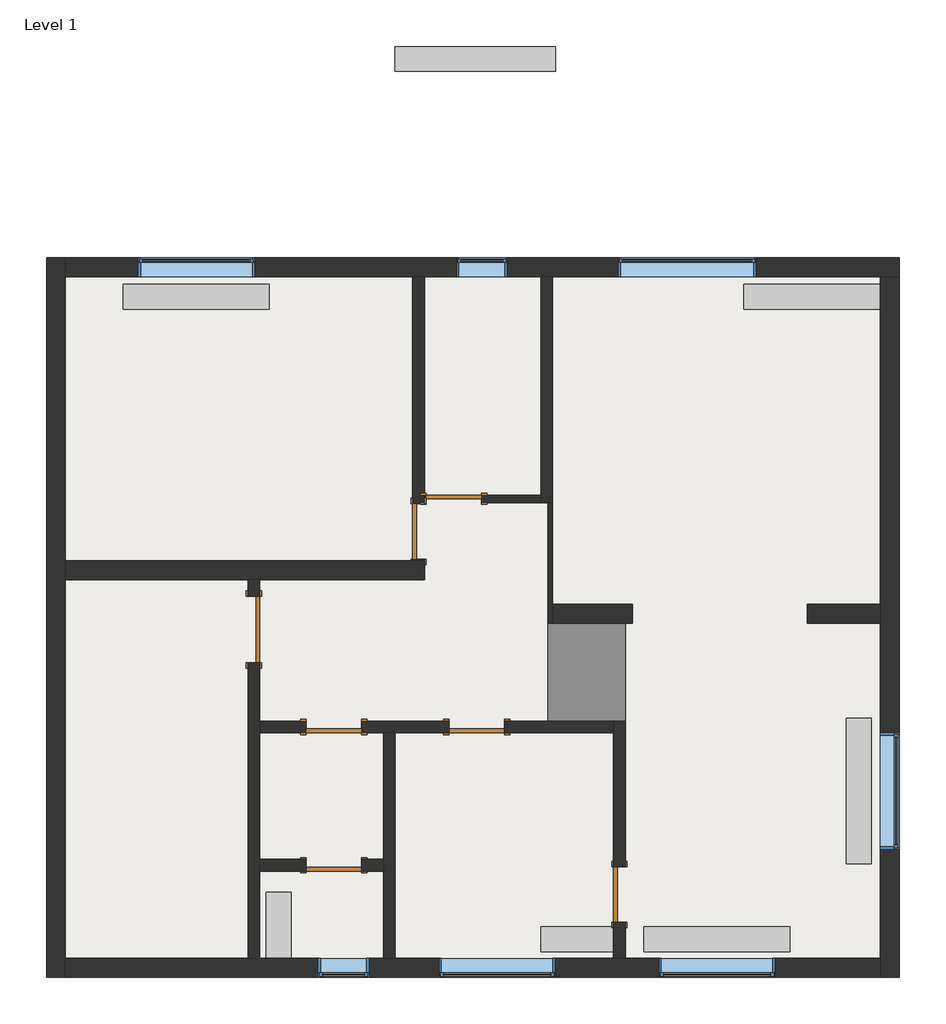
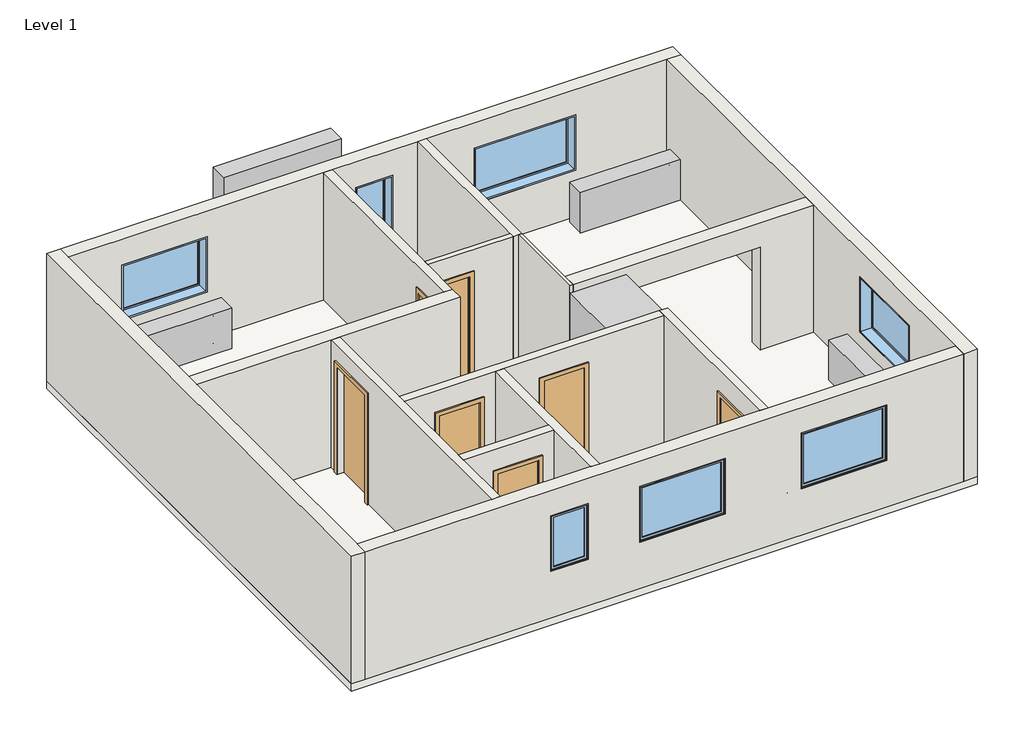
# One storey, incomplete: 15 walls, 7 doors, 7 unitary equipment elements, 7 windows, 1 furniture element, 1 slab.
"""IFC4 building model written with IfcOpenShell, lengths in millimetres."""

from ifc_helpers import new_model, si_unit, frame, origin, place, context, project, spatial, polyline, outline, extrude, faceted_brep, transform, mapped, element, save
from components import m_single_flush_0762_x_2032mm_6f5f7af1, m_single_flush_0762_x_2032mm_6732b1f7, m_single_flush_0762_x_2032mm_f33351b3, m_single_flush_0915_x_2134mm_27e29ea0, furniture_1_furniture_1_8dd05b43, unitary_equipment_ced749f4, unitary_equipment_4d061db1, unitary_equipment_6757032b, unitary_equipment_6f832c0a, m_fixed_0700_x_1100mm_63e92665, m_fixed_1600_x_1100mm_008575aa, m_fixed_1900_x_1100mm_ff859e30

model = new_model("IFC4")

# Units and contexts
model_context = context("Model", 3, world=origin())
ifc_project = project(units=[si_unit("LENGTHUNIT", "METRE", prefix="MILLI")], contexts=[model_context])

# Site, building, storey
site = spatial("IfcSite", under=ifc_project)
building = spatial("IfcBuilding", under=site)
storey = spatial("IfcBuildingStorey", under=building, Name="Level 1", Elevation=0.0)

# Doors
placement = place(None, origin())
m_single_flush_0762_x_2032mm_shape = m_single_flush_0762_x_2032mm_6f5f7af1(model_context)
element("IfcDoor", 1, ObjectType="M_Single-Flush : 0762 x 2032mm", at=placement, inside=storey, context=model_context, shape_type="MappedRepresentation", body=[
    mapped(m_single_flush_0762_x_2032mm_shape, transform((-2700.8634976, 2056.4084322, 0.0), x_axis=(0.0, -1.0, 0.0), y_axis=(1.0, 0.0, 0.0), z_axis=(0.0, 0.0, 1.0))),
])
element("IfcDoor", 2, ObjectType="M_Single-Flush : 0762 x 2032mm", at=placement, inside=storey, context=model_context, shape_type="MappedRepresentation", body=[
    mapped(m_single_flush_0762_x_2032mm_shape, transform((59.1365024, -2922.5915678, 0.0), x_axis=(0.0, -1.0, 0.0), y_axis=(1.0, 0.0, 0.0), z_axis=(0.0, 0.0, 1.0))),
])
m_single_flush_0762_x_2032mm_2_shape = m_single_flush_0762_x_2032mm_6732b1f7(model_context)
element("IfcDoor", 3, ObjectType="M_Single-Flush : 0762 x 2032mm", at=placement, inside=storey, context=model_context, shape_type="MappedRepresentation", body=[
    mapped(m_single_flush_0762_x_2032mm_2_shape, transform((-2219.8634976, 2506.4084322, 0.0), x_axis=(1.0, 0.0, 0.0), y_axis=(0.0, 1.0, 0.0), z_axis=(0.0, 0.0, 1.0))),
])
m_single_flush_0762_x_2032mm_3_shape = m_single_flush_0762_x_2032mm_f33351b3(model_context)
element("IfcDoor", 4, ObjectType="M_Single-Flush : 0762 x 2032mm", at=placement, inside=storey, context=model_context, shape_type="MappedRepresentation", body=[
    mapped(m_single_flush_0762_x_2032mm_3_shape, transform((-1901.8634976, -623.5915678, 0.0), x_axis=(-1.0, 0.0, 0.0), y_axis=(0.0, -1.0, 0.0), z_axis=(0.0, 0.0, 1.0))),
])
element("IfcDoor", 5, ObjectType="M_Single-Flush : 0762 x 2032mm", at=placement, inside=storey, context=model_context, shape_type="MappedRepresentation", body=[
    mapped(m_single_flush_0762_x_2032mm_3_shape, transform((-3861.8634976, -2523.5915678, 0.0), x_axis=(-1.0, 0.0, 0.0), y_axis=(0.0, -1.0, 0.0), z_axis=(0.0, 0.0, 1.0))),
])
element("IfcDoor", 6, ObjectType="M_Single-Flush : 0762 x 2032mm", at=placement, inside=storey, context=model_context, shape_type="MappedRepresentation", body=[
    mapped(m_single_flush_0762_x_2032mm_3_shape, transform((-3861.8634976, -623.5915678, 0.0), x_axis=(-1.0, 0.0, 0.0), y_axis=(0.0, -1.0, 0.0), z_axis=(0.0, 0.0, 1.0))),
])
m_single_flush_0915_x_2134mm_shape = m_single_flush_0915_x_2134mm_27e29ea0(model_context)
element("IfcDoor", 7, ObjectType="M_Single-Flush : 0915 x 2134mm", at=placement, inside=storey, context=model_context, shape_type="MappedRepresentation", body=[
    mapped(m_single_flush_0915_x_2134mm_shape, transform((-4960.8634976, 713.9084322, 0.0), x_axis=(0.0, 1.0, 0.0), y_axis=(-1.0, 0.0, 0.0), z_axis=(0.0, 0.0, 1.0))),
])

# Furniture
furniture_1_furniture_1_shape = furniture_1_furniture_1_8dd05b43(model_context)
element("IfcFurniture", 8, ObjectType="Furniture 1 : Furniture 1", at=placement, inside=storey, context=model_context, shape_type="MappedRepresentation", body=[
    mapped(furniture_1_furniture_1_shape, transform((0.0, 0.0, 0.0), x_axis=(1.0, 0.0, 0.0), y_axis=(0.0, 1.0, 0.0), z_axis=(0.0, 0.0, 1.0))),
])

# Slab
element("IfcSlab", 9, ObjectType="Generic 150mm", at=placement, inside=storey, context=model_context, shape_type="SweptSolid", body=[
    extrude(outline(polyline([(-7810.8634976, -4063.5915678), (-7810.8634976, 5816.4084322), (3899.1365024, 5816.4084322), (3899.1365024, -4063.5915678), (-7810.8634976, -4063.5915678)])), frame((0.0, 0.0, -150.0), z_axis=(0.0, 0.0, 1.0), x_axis=(1.0, 0.0, 0.0)), (0.0, 0.0, 1.0), 150.0),
])

# Unitary equipment
unitary_equipment_shape = unitary_equipment_ced749f4(model_context)
element("IfcUnitaryEquipment", 10, ObjectType="nbl_Radiators : nbl_Radiators", at=placement, inside=storey, context=model_context, shape_type="MappedRepresentation", body=[
    mapped(unitary_equipment_shape, transform((-1892.7024399, 9542.9246025, 0.0), x_axis=(1.0, 0.0, 0.0), y_axis=(0.0, 1.0, 0.0), z_axis=(0.0, 0.0, 1.0))),
])
unitary_equipment_2_shape = unitary_equipment_4d061db1(model_context)
element("IfcUnitaryEquipment", 11, ObjectType="nbl_Radiators : nbl_Radiators_1600", at=placement, inside=storey, context=model_context, shape_type="MappedRepresentation", body=[
    mapped(unitary_equipment_2_shape, transform((-5727.0804199, 6277.3751546, 0.0), x_axis=(1.0, 0.0, 0.0), y_axis=(0.0, 1.0, 0.0), z_axis=(0.0, 0.0, 1.0))),
])
element("IfcUnitaryEquipment", 12, ObjectType="nbl_Radiators : nbl_Radiators_1600", at=placement, inside=storey, context=model_context, shape_type="MappedRepresentation", body=[
    mapped(unitary_equipment_2_shape, transform((2798.0897566, 6277.3751546, 0.0), x_axis=(1.0, 0.0, 0.0), y_axis=(0.0, 1.0, 0.0), z_axis=(0.0, 0.0, 1.0))),
])
element("IfcUnitaryEquipment", 13, ObjectType="nbl_Radiators : nbl_Radiators_1600", at=placement, inside=storey, context=model_context, shape_type="MappedRepresentation", body=[
    mapped(unitary_equipment_2_shape, transform((4342.3309976, -1530.2432821, 0.0), x_axis=(0.0, -1.0000000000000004, 0.0), y_axis=(1.0000000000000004, 0.0, 0.0), z_axis=(0.0, 0.0, 1.0))),
])
element("IfcUnitaryEquipment", 14, ObjectType="nbl_Radiators : nbl_Radiators_1600", at=placement, inside=storey, context=model_context, shape_type="MappedRepresentation", body=[
    mapped(unitary_equipment_2_shape, transform((1369.653756, -4536.1130181, 0.0), x_axis=(-1.0000000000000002, 0.0, 0.0), y_axis=(0.0, -1.0000000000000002, 0.0), z_axis=(0.0, 0.0, 1.0))),
])
unitary_equipment_3_shape = unitary_equipment_6757032b(model_context)
element("IfcUnitaryEquipment", 15, ObjectType="nbl_Radiators : nbl_Radiators-700", at=placement, inside=storey, context=model_context, shape_type="MappedRepresentation", body=[
    mapped(unitary_equipment_3_shape, transform((-499.0914281, -4536.1130181, 0.0), x_axis=(-1.0, 0.0, 0.0), y_axis=(0.0, -1.0, 0.0), z_axis=(0.0, 0.0, 1.0))),
])
unitary_equipment_4_shape = unitary_equipment_6f832c0a(model_context)
element("IfcUnitaryEquipment", 16, ObjectType="nbl_Radiators : nbl_Radiators-625", at=placement, inside=storey, context=model_context, shape_type="MappedRepresentation", body=[
    mapped(unitary_equipment_4_shape, transform((-5618.8559456, -3381.0044534, 0.0), x_axis=(0.0, 1.0, 0.0), y_axis=(-1.0, 0.0, 0.0), z_axis=(0.0, 0.0, 1.0))),
])

# Walls
element("IfcWall", 17, ObjectType="Generic - 100mm", at=placement, inside=storey, context=model_context, shape_type="SweptSolid", body=[
    extrude(outline(polyline([(2032.0, -1838.8634976), (0.0, -1838.8634976), (0.0, -1020.8634976), (2520.0, -1020.8634976), (2520.0, -2620.8634976), (0.0, -2620.8634976), (0.0, -2600.8634976), (2032.0, -2600.8634976), (2032.0, -1838.8634976)])), frame((0.0, 2456.4084322, 0.0), z_axis=(0.0, 1.0, 0.0), x_axis=(0.0, 0.0, 1.0)), (0.0, 0.0, 1.0), 100.0),
])
element("IfcWall", 18, ObjectType="Generic - 160mm", at=placement, inside=storey, context=model_context, shape_type="Brep", body=[
    faceted_brep([(-2620.8634976, 5556.4084322, 2520.0), (-2620.8634976, 2556.4084322, 2520.0), (-2620.8634976, 2456.4084322, 2520.0), (-2620.8634976, 1656.4084322, 2520.0), (-2620.8634976, 1656.4084322, 0.0), (-2620.8634976, 1675.4084322, 0.0), (-2620.8634976, 1675.4084322, 2032.0), (-2620.8634976, 2437.4084322, 2032.0), (-2620.8634976, 2437.4084322, 0.0), (-2620.8634976, 2456.4084322, 0.0), (-2620.8634976, 2556.4084322, 0.0), (-2620.8634976, 5556.4084322, 0.0), (-2780.8634976, 1656.4084322, 2520.0), (-2780.8634976, 5556.4084322, 2520.0), (-2780.8634976, 5556.4084322, 0.0), (-2780.8634976, 2437.4084322, 0.0), (-2780.8634976, 2437.4084322, 2032.0), (-2780.8634976, 1675.4084322, 2032.0), (-2780.8634976, 1675.4084322, 0.0), (-2780.8634976, 1656.4084322, 0.0)], [[[0, 1, 2, 3, 4, 5, 6, 7, 8, 9, 10, 11]], [[12, 13, 14, 15, 16, 17, 18, 19]], [[4, 19, 18, 5]], [[14, 11, 10, 9, 8, 15]], [[3, 2, 1, 0, 13, 12]], [[4, 3, 12, 19]], [[0, 11, 14, 13]], [[17, 6, 5, 18]], [[6, 17, 16, 7]], [[7, 16, 15, 8]]]),
])
element("IfcWall", 19, ObjectType="Generic - 160mm", at=placement, inside=storey, context=model_context, shape_type="Brep", body=[
    faceted_brep([(-1020.8634976, 5556.4084322, 0.0), (-1020.8634976, 2556.4084322, 0.0), (-1020.8634976, 2456.4084322, 0.0), (-1020.8634976, 2456.4084322, 2520.0), (-1020.8634976, 2556.4084322, 2520.0), (-1020.8634976, 5556.4084322, 2520.0), (-860.8634976, 5556.4084322, 0.0), (-860.8634976, 5556.4084322, 2520.0), (-860.8634976, 2456.4084322, 2520.0), (-860.8634976, 2456.4084322, 0.0), (-920.8634976, 2456.4084322, 0.0), (-920.8634976, 2456.4084322, 2520.0)], [[[0, 1, 2, 3, 4, 5]], [[6, 7, 8, 9]], [[2, 1, 0, 6, 9, 10]], [[5, 4, 3, 11, 8, 7]], [[0, 5, 7, 6]], [[3, 2, 10, 9, 8, 11]]]),
])
element("IfcWall", 20, ObjectType="Generic - 160mm", at=placement, inside=storey, context=model_context, shape_type="Brep", body=[
    faceted_brep([(139.1365024, -3803.5915678, 0.0), (139.1365024, -3303.5915678, 0.0), (139.1365024, -3303.5915678, 2032.0), (139.1365024, -2541.5915678, 2032.0), (139.1365024, -2541.5915678, 0.0), (139.1365024, -543.5915678, 0.0), (139.1365024, -543.5915678, 2520.0), (139.1365024, -3803.5915678, 2520.0), (-20.8634976, -3303.5915678, 2032.0), (-20.8634976, -3303.5915678, 0.0), (-20.8634976, -3803.5915678, 0.0), (-20.8634976, -3803.5915678, 2520.0), (-20.8634976, -703.5915678, 2520.0), (-20.8634976, -543.5915678, 2520.0), (-20.8634976, -543.5915678, 0.0), (-20.8634976, -703.5915678, 0.0), (-20.8634976, -2541.5915678, 0.0), (-20.8634976, -2541.5915678, 2032.0)], [[[0, 1, 2, 3, 4, 5, 6, 7]], [[8, 9, 10, 11, 12, 13, 14, 15, 16, 17]], [[10, 9, 1, 0]], [[16, 15, 14, 5, 4]], [[7, 6, 13, 12, 11]], [[0, 7, 11, 10]], [[6, 5, 14, 13]], [[2, 1, 9, 8]], [[3, 2, 8, 17]], [[4, 3, 17, 16]]]),
])
element("IfcWall", 21, ObjectType="Generic - 160mm", at=placement, inside=storey, context=model_context, shape_type="Brep", body=[
    faceted_brep([(-4242.8634976, -543.5915678, 2032.0), (-4242.8634976, -543.5915678, 0.0), (-4880.8634976, -543.5915678, 0.0), (-4880.8634976, -543.5915678, 2520.0), (-20.8634976, -543.5915678, 2520.0), (-20.8634976, -543.5915678, 0.0), (-1520.8634976, -543.5915678, 0.0), (-1520.8634976, -543.5915678, 2032.0), (-2282.8634976, -543.5915678, 2032.0), (-2282.8634976, -543.5915678, 0.0), (-3480.8634976, -543.5915678, 0.0), (-3480.8634976, -543.5915678, 2032.0), (-4880.8634976, -703.5915678, 0.0), (-4242.8634976, -703.5915678, 0.0), (-4242.8634976, -703.5915678, 2032.0), (-3480.8634976, -703.5915678, 2032.0), (-3480.8634976, -703.5915678, 0.0), (-3180.8634976, -703.5915678, 0.0), (-3020.8634976, -703.5915678, 0.0), (-2282.8634976, -703.5915678, 0.0), (-2282.8634976, -703.5915678, 2032.0), (-1520.8634976, -703.5915678, 2032.0), (-1520.8634976, -703.5915678, 0.0), (-20.8634976, -703.5915678, 0.0), (-20.8634976, -703.5915678, 2520.0), (-3020.8634976, -703.5915678, 2520.0), (-3180.8634976, -703.5915678, 2520.0), (-4880.8634976, -703.5915678, 2520.0)], [[[0, 1, 2, 3, 4, 5, 6, 7, 8, 9, 10, 11]], [[12, 13, 14, 15, 16, 17, 18, 19, 20, 21, 22, 23, 24, 25, 26, 27]], [[6, 5, 23, 22]], [[10, 9, 19, 18, 17, 16]], [[2, 1, 13, 12]], [[4, 3, 27, 26, 25, 24]], [[5, 4, 24, 23]], [[3, 2, 12, 27]], [[20, 19, 9, 8]], [[21, 20, 8, 7]], [[22, 21, 7, 6]], [[14, 13, 1, 0]], [[15, 14, 0, 11]], [[16, 15, 11, 10]]]),
])
element("IfcWall", 22, ObjectType="Generic - 160mm", at=placement, inside=storey, context=model_context, shape_type="Brep", body=[
    faceted_brep([(-4880.8634976, 1171.4084322, 2134.0), (-4880.8634976, 1171.4084322, 0.0), (-4880.8634976, 1396.4084322, 0.0), (-4880.8634976, 1396.4084322, 2520.0), (-4880.8634976, -543.5915678, 2520.0), (-4880.8634976, -703.5915678, 2520.0), (-4880.8634976, -2443.5915678, 2520.0), (-4880.8634976, -2603.5915678, 2520.0), (-4880.8634976, -3803.5915678, 2520.0), (-4880.8634976, -3803.5915678, 0.0), (-4880.8634976, -2603.5915678, 0.0), (-4880.8634976, -2443.5915678, 0.0), (-4880.8634976, -703.5915678, 0.0), (-4880.8634976, -543.5915678, 0.0), (-4880.8634976, 256.4084322, 0.0), (-4880.8634976, 256.4084322, 2134.0), (-5040.8634976, 1396.4084322, 0.0), (-5040.8634976, 1171.4084322, 0.0), (-5040.8634976, 1171.4084322, 2134.0), (-5040.8634976, 256.4084322, 2134.0), (-5040.8634976, 256.4084322, 0.0), (-5040.8634976, -3803.5915678, 0.0), (-5040.8634976, -3803.5915678, 2520.0), (-5040.8634976, 1396.4084322, 2520.0)], [[[0, 1, 2, 3, 4, 5, 6, 7, 8, 9, 10, 11, 12, 13, 14, 15]], [[16, 17, 18, 19, 20, 21, 22, 23]], [[2, 1, 17, 16]], [[14, 13, 12, 11, 10, 9, 21, 20]], [[8, 7, 6, 5, 4, 3, 23, 22]], [[9, 8, 22, 21]], [[3, 2, 16, 23]], [[18, 17, 1, 0]], [[19, 18, 0, 15]], [[20, 19, 15, 14]]]),
])
element("IfcWall", 23, ObjectType="Generic - 160mm", at=placement, inside=storey, context=model_context, shape_type="Brep", body=[
    faceted_brep([(-3020.8634976, -3803.5915678, 0.0), (-3020.8634976, -703.5915678, 0.0), (-3020.8634976, -703.5915678, 2520.0), (-3020.8634976, -3803.5915678, 2520.0), (-3180.8634976, -3803.5915678, 0.0), (-3180.8634976, -3803.5915678, 2520.0), (-3180.8634976, -2603.5915678, 2520.0), (-3180.8634976, -2443.5915678, 2520.0), (-3180.8634976, -703.5915678, 2520.0), (-3180.8634976, -703.5915678, 0.0), (-3180.8634976, -2443.5915678, 0.0), (-3180.8634976, -2603.5915678, 0.0)], [[[0, 1, 2, 3]], [[4, 5, 6, 7, 8, 9, 10, 11]], [[1, 0, 4, 11, 10, 9]], [[3, 2, 8, 7, 6, 5]], [[0, 3, 5, 4]], [[2, 1, 9, 8]]]),
])
element("IfcWall", 24, ObjectType="Generic - 160mm", at=placement, inside=storey, context=model_context, shape_type="SweptSolid", body=[
    extrude(outline(polyline([(0.0, -4880.8634976), (0.0, -4242.8634976), (2032.0, -4242.8634976), (2032.0, -3480.8634976), (0.0, -3480.8634976), (0.0, -3180.8634976), (2520.0, -3180.8634976), (2520.0, -4880.8634976), (0.0, -4880.8634976)])), frame((0.0, -2603.5915678, 0.0), z_axis=(0.0, 1.0, 0.0), x_axis=(0.0, 0.0, 1.0)), (0.0, 0.0, 1.0), 160.0),
])
element("IfcWall", 25, ObjectType="Generic - 260mm", at=placement, inside=storey, context=model_context, shape_type="Brep", body=[
    faceted_brep([(-7550.8634976, 1396.4084322, 0.0), (-5040.8634976, 1396.4084322, 0.0), (-4880.8634976, 1396.4084322, 0.0), (-2620.8634976, 1396.4084322, 0.0), (-2620.8634976, 1396.4084322, 2520.0), (-4880.8634976, 1396.4084322, 2520.0), (-5040.8634976, 1396.4084322, 2520.0), (-7550.8634976, 1396.4084322, 2520.0), (-7550.8634976, 1656.4084322, 0.0), (-7550.8634976, 1656.4084322, 2520.0), (-2780.8634976, 1656.4084322, 2520.0), (-2620.8634976, 1656.4084322, 2520.0), (-2620.8634976, 1656.4084322, 0.0), (-2780.8634976, 1656.4084322, 0.0)], [[[0, 1, 2, 3, 4, 5, 6, 7]], [[8, 9, 10, 11, 12, 13]], [[3, 2, 1, 0, 8, 13, 12]], [[7, 6, 5, 4, 11, 10, 9]], [[0, 7, 9, 8]], [[4, 3, 12, 11]]]),
])
element("IfcWall", 26, ObjectType="Generic - 260mm", at=placement, inside=storey, context=model_context, shape_type="SweptSolid", body=[
    extrude(outline(polyline([(0.0, -860.8634976), (0.0, 239.1365024), (2032.0, 239.1365024), (2032.0, 2639.1365024), (0.0, 2639.1365024), (0.0, 3639.1365024), (2520.0, 3639.1365024), (2520.0, -860.8634976), (0.0, -860.8634976)])), frame((0.0, 796.4084322, 0.0), z_axis=(0.0, 1.0, 0.0), x_axis=(0.0, 0.0, 1.0)), (0.0, 0.0, 1.0), 260.0),
])
element("IfcWall", 27, ObjectType="Generic - 260mm - External", at=placement, inside=storey, context=model_context, shape_type="Brep", body=[
    faceted_brep([(-7550.8634976, -4063.5915678, 0.0), (-7550.8634976, -3803.5915678, 0.0), (-7550.8634976, 1396.4084322, 0.0), (-7550.8634976, 1656.4084322, 0.0), (-7550.8634976, 5556.4084322, 0.0), (-7550.8634976, 5816.4084322, 0.0), (-7550.8634976, 5816.4084322, 2520.0), (-7550.8634976, 5556.4084322, 2520.0), (-7550.8634976, 1656.4084322, 2520.0), (-7550.8634976, 1396.4084322, 2520.0), (-7550.8634976, -3803.5915678, 2520.0), (-7550.8634976, -4063.5915678, 2520.0), (-7810.8634976, -4063.5915678, 0.0), (-7810.8634976, -4063.5915678, 2520.0), (-7810.8634976, 5816.4084322, 2520.0), (-7810.8634976, 5816.4084322, 0.0)], [[[0, 1, 2, 3, 4, 5, 6, 7, 8, 9, 10, 11]], [[12, 13, 14, 15]], [[5, 4, 3, 2, 1, 0, 12, 15]], [[11, 10, 9, 8, 7, 6, 14, 13]], [[6, 5, 15, 14]], [[0, 11, 13, 12]]]),
])
element("IfcWall", 28, ObjectType="Generic - 260mm - External", at=placement, inside=storey, context=model_context, shape_type="Brep", body=[
    faceted_brep([(-7550.8634976, 5556.4084322, 0.0), (-2780.8634976, 5556.4084322, 0.0), (-2620.8634976, 5556.4084322, 0.0), (-1020.8634976, 5556.4084322, 0.0), (-860.8634976, 5556.4084322, 0.0), (3639.1365024, 5556.4084322, 0.0), (3899.1365024, 5556.4084322, 0.0), (3899.1365024, 5556.4084322, 2520.0), (3639.1365024, 5556.4084322, 2520.0), (-860.8634976, 5556.4084322, 2520.0), (-1020.8634976, 5556.4084322, 2520.0), (-2620.8634976, 5556.4084322, 2520.0), (-2780.8634976, 5556.4084322, 2520.0), (-7550.8634976, 5556.4084322, 2520.0), (-6550.8634976, 5556.4084322, 915.0), (-6550.8634976, 5556.4084322, 2015.0), (-4950.8634976, 5556.4084322, 2015.0), (-4950.8634976, 5556.4084322, 915.0), (-2180.8634976, 5556.4084322, 915.0), (-2180.8634976, 5556.4084322, 2015.0), (-1480.8634976, 5556.4084322, 2015.0), (-1480.8634976, 5556.4084322, 915.0), (39.1365024, 5556.4084322, 915.0), (39.1365024, 5556.4084322, 2015.0), (1939.1365024, 5556.4084322, 2015.0), (1939.1365024, 5556.4084322, 915.0), (-7550.8634976, 5816.4084322, 0.0), (-7550.8634976, 5816.4084322, 2520.0), (3899.1365024, 5816.4084322, 2520.0), (3899.1365024, 5816.4084322, 0.0), (-6550.8634976, 5816.4084322, 915.0), (-4950.8634976, 5816.4084322, 915.0), (-4950.8634976, 5816.4084322, 2015.0), (-6550.8634976, 5816.4084322, 2015.0), (-2180.8634976, 5816.4084322, 915.0), (-1480.8634976, 5816.4084322, 915.0), (-1480.8634976, 5816.4084322, 2015.0), (-2180.8634976, 5816.4084322, 2015.0), (39.1365024, 5816.4084322, 915.0), (1939.1365024, 5816.4084322, 915.0), (1939.1365024, 5816.4084322, 2015.0), (39.1365024, 5816.4084322, 2015.0)], [[[0, 1, 2, 3, 4, 5, 6, 7, 8, 9, 10, 11, 12, 13], [14, 15, 16, 17], [18, 19, 20, 21], [22, 23, 24, 25]], [[26, 27, 28, 29], [30, 31, 32, 33], [34, 35, 36, 37], [38, 39, 40, 41]], [[6, 5, 4, 3, 2, 1, 0, 26, 29]], [[13, 12, 11, 10, 9, 8, 7, 28, 27]], [[0, 13, 27, 26]], [[7, 6, 29, 28]], [[15, 14, 30, 33]], [[16, 15, 33, 32]], [[17, 16, 32, 31]], [[14, 17, 31, 30]], [[19, 18, 34, 37]], [[20, 19, 37, 36]], [[21, 20, 36, 35]], [[18, 21, 35, 34]], [[23, 22, 38, 41]], [[24, 23, 41, 40]], [[25, 24, 40, 39]], [[22, 25, 39, 38]]]),
])
element("IfcWall", 29, ObjectType="Generic - 260mm - External", at=placement, inside=storey, context=model_context, shape_type="Brep", body=[
    faceted_brep([(3639.1365024, 5556.4084322, 0.0), (3639.1365024, 1056.4084322, 0.0), (3639.1365024, 796.4084322, 0.0), (3639.1365024, -3803.5915678, 0.0), (3639.1365024, -4063.5915678, 0.0), (3639.1365024, -4063.5915678, 2520.0), (3639.1365024, -3803.5915678, 2520.0), (3639.1365024, 796.4084322, 2520.0), (3639.1365024, 1056.4084322, 2520.0), (3639.1365024, 5556.4084322, 2520.0), (3639.1365024, -703.5915678, 915.0), (3639.1365024, -703.5915678, 2015.0), (3639.1365024, -2303.5915678, 2015.0), (3639.1365024, -2303.5915678, 915.0), (3899.1365024, 5556.4084322, 0.0), (3899.1365024, 5556.4084322, 2520.0), (3899.1365024, -4063.5915678, 2520.0), (3899.1365024, -4063.5915678, 0.0), (3899.1365024, -703.5915678, 915.0), (3899.1365024, -2303.5915678, 915.0), (3899.1365024, -2303.5915678, 2015.0), (3899.1365024, -703.5915678, 2015.0)], [[[0, 1, 2, 3, 4, 5, 6, 7, 8, 9], [10, 11, 12, 13]], [[14, 15, 16, 17], [18, 19, 20, 21]], [[4, 3, 2, 1, 0, 14, 17]], [[9, 8, 7, 6, 5, 16, 15]], [[0, 9, 15, 14]], [[5, 4, 17, 16]], [[11, 10, 18, 21]], [[12, 11, 21, 20]], [[13, 12, 20, 19]], [[10, 13, 19, 18]]]),
])
element("IfcWall", 30, ObjectType="Generic - 260mm - External", at=placement, inside=storey, context=model_context, shape_type="Brep", body=[
    faceted_brep([(3639.1365024, -3803.5915678, 0.0), (139.1365024, -3803.5915678, 0.0), (-20.8634976, -3803.5915678, 0.0), (-3020.8634976, -3803.5915678, 0.0), (-3180.8634976, -3803.5915678, 0.0), (-4880.8634976, -3803.5915678, 0.0), (-5040.8634976, -3803.5915678, 0.0), (-7550.8634976, -3803.5915678, 0.0), (-7550.8634976, -3803.5915678, 2520.0), (-5040.8634976, -3803.5915678, 2520.0), (-4880.8634976, -3803.5915678, 2520.0), (-3180.8634976, -3803.5915678, 2520.0), (-3020.8634976, -3803.5915678, 2520.0), (-20.8634976, -3803.5915678, 2520.0), (139.1365024, -3803.5915678, 2520.0), (3639.1365024, -3803.5915678, 2520.0), (2199.1365024, -3803.5915678, 915.0), (2199.1365024, -3803.5915678, 2015.0), (599.1365024, -3803.5915678, 2015.0), (599.1365024, -3803.5915678, 915.0), (-820.8634976, -3803.5915678, 915.0), (-820.8634976, -3803.5915678, 2015.0), (-2420.8634976, -3803.5915678, 2015.0), (-2420.8634976, -3803.5915678, 915.0), (-3380.8634976, -3803.5915678, 915.0), (-3380.8634976, -3803.5915678, 2015.0), (-4080.8634976, -3803.5915678, 2015.0), (-4080.8634976, -3803.5915678, 915.0), (3639.1365024, -4063.5915678, 0.0), (3639.1365024, -4063.5915678, 2520.0), (-7550.8634976, -4063.5915678, 2520.0), (-7550.8634976, -4063.5915678, 0.0), (2199.1365024, -4063.5915678, 915.0), (599.1365024, -4063.5915678, 915.0), (599.1365024, -4063.5915678, 2015.0), (2199.1365024, -4063.5915678, 2015.0), (-820.8634976, -4063.5915678, 915.0), (-2420.8634976, -4063.5915678, 915.0), (-2420.8634976, -4063.5915678, 2015.0), (-820.8634976, -4063.5915678, 2015.0), (-3380.8634976, -4063.5915678, 915.0), (-4080.8634976, -4063.5915678, 915.0), (-4080.8634976, -4063.5915678, 2015.0), (-3380.8634976, -4063.5915678, 2015.0)], [[[0, 1, 2, 3, 4, 5, 6, 7, 8, 9, 10, 11, 12, 13, 14, 15], [16, 17, 18, 19], [20, 21, 22, 23], [24, 25, 26, 27]], [[28, 29, 30, 31], [32, 33, 34, 35], [36, 37, 38, 39], [40, 41, 42, 43]], [[7, 6, 5, 4, 3, 2, 1, 0, 28, 31]], [[15, 14, 13, 12, 11, 10, 9, 8, 30, 29]], [[8, 7, 31, 30]], [[0, 15, 29, 28]], [[17, 16, 32, 35]], [[18, 17, 35, 34]], [[19, 18, 34, 33]], [[16, 19, 33, 32]], [[21, 20, 36, 39]], [[22, 21, 39, 38]], [[23, 22, 38, 37]], [[20, 23, 37, 36]], [[25, 24, 40, 43]], [[26, 25, 43, 42]], [[27, 26, 42, 41]], [[24, 27, 41, 40]]]),
])
element("IfcWall", 31, ObjectType="Generic - 60mm", at=placement, inside=storey, context=model_context, shape_type="Brep", body=[
    faceted_brep([(-920.8634976, 2456.4084322, 0.0), (-920.8634976, 796.4084322, 0.0), (-920.8634976, 796.4084322, 2520.0), (-920.8634976, 2456.4084322, 2520.0), (-860.8634976, 2456.4084322, 0.0), (-860.8634976, 2456.4084322, 2520.0), (-860.8634976, 1056.4084322, 2520.0), (-860.8634976, 796.4084322, 2520.0), (-860.8634976, 796.4084322, 0.0), (-860.8634976, 1056.4084322, 0.0)], [[[0, 1, 2, 3]], [[4, 5, 6, 7, 8, 9]], [[1, 0, 4, 9, 8]], [[3, 2, 7, 6, 5]], [[0, 3, 5, 4]], [[2, 1, 8, 7]]]),
])

# Windows
m_fixed_0700_x_1100mm_shape = m_fixed_0700_x_1100mm_63e92665(model_context)
element("IfcWindow", 32, ObjectType="M_Fixed : 0700 x 1100mm", at=placement, inside=storey, context=model_context, shape_type="MappedRepresentation", body=[
    mapped(m_fixed_0700_x_1100mm_shape, transform((-1830.8634976, 5673.4084322, 0.0), x_axis=(1.0, 0.0, 0.0), y_axis=(0.0, 1.0, 0.0), z_axis=(0.0, 0.0, 1.0))),
])
element("IfcWindow", 33, ObjectType="M_Fixed : 0700 x 1100mm", at=placement, inside=storey, context=model_context, shape_type="MappedRepresentation", body=[
    mapped(m_fixed_0700_x_1100mm_shape, transform((-3730.8634976, -3920.5915678, 0.0), x_axis=(-1.0, 0.0, 0.0), y_axis=(0.0, -1.0, 0.0), z_axis=(0.0, 0.0, 1.0))),
])
m_fixed_1600_x_1100mm_shape = m_fixed_1600_x_1100mm_008575aa(model_context)
element("IfcWindow", 34, ObjectType="M_Fixed : 1600 x 1100mm", at=placement, inside=storey, context=model_context, shape_type="MappedRepresentation", body=[
    mapped(m_fixed_1600_x_1100mm_shape, transform((-5750.8634976, 5673.4084322, 0.0), x_axis=(1.0, 0.0, 0.0), y_axis=(0.0, 1.0, 0.0), z_axis=(0.0, 0.0, 1.0))),
])
element("IfcWindow", 35, ObjectType="M_Fixed : 1600 x 1100mm", at=placement, inside=storey, context=model_context, shape_type="MappedRepresentation", body=[
    mapped(m_fixed_1600_x_1100mm_shape, transform((3756.1365024, -1503.5915678, 0.0), x_axis=(0.0, -1.0, 0.0), y_axis=(1.0, 0.0, 0.0), z_axis=(0.0, 0.0, 1.0))),
])
element("IfcWindow", 36, ObjectType="M_Fixed : 1600 x 1100mm", at=placement, inside=storey, context=model_context, shape_type="MappedRepresentation", body=[
    mapped(m_fixed_1600_x_1100mm_shape, transform((1399.1365024, -3920.5915678, 0.0), x_axis=(-1.0, 0.0, 0.0), y_axis=(0.0, -1.0, 0.0), z_axis=(0.0, 0.0, 1.0))),
])
element("IfcWindow", 37, ObjectType="M_Fixed : 1600 x 1100mm", at=placement, inside=storey, context=model_context, shape_type="MappedRepresentation", body=[
    mapped(m_fixed_1600_x_1100mm_shape, transform((-1620.8634976, -3920.5915678, 0.0), x_axis=(-1.0, 0.0, 0.0), y_axis=(0.0, -1.0, 0.0), z_axis=(0.0, 0.0, 1.0))),
])
m_fixed_1900_x_1100mm_shape = m_fixed_1900_x_1100mm_ff859e30(model_context)
element("IfcWindow", 38, ObjectType="M_Fixed : 1900 x 1100mm", at=placement, inside=storey, context=model_context, shape_type="MappedRepresentation", body=[
    mapped(m_fixed_1900_x_1100mm_shape, transform((989.1365024, 5673.4084322, 0.0), x_axis=(1.0, 0.0, 0.0), y_axis=(0.0, 1.0, 0.0), z_axis=(0.0, 0.0, 1.0))),
])

save(model, "model.ifc")
